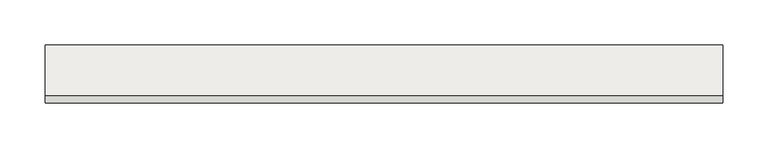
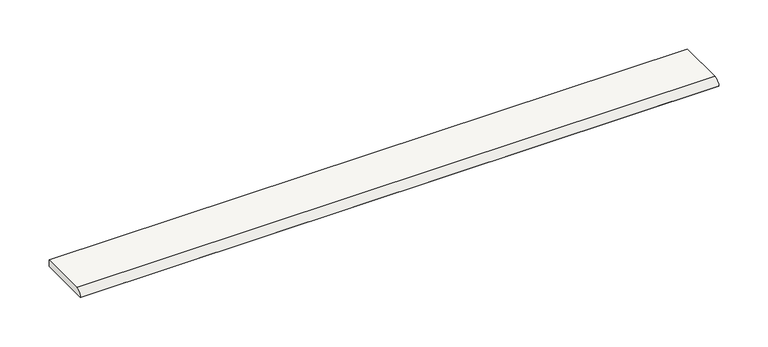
"""IFC4 building model written with IfcOpenShell, lengths in millimetres: slab geometry, ROSA GRES_013 : Pieza 013_Aqua_Marino_Liso."""

from ifc_helpers import new_model, si_unit, point, frame, frame_2d, origin, place, context, project, spatial, polyline, circle_curve, trimmed, segment, composite_curve, outline, extrude, source, transform, mapped, element, save


def slab_85165e39(model_context):
    return source(origin(), model_context, "Body", "SweptSolid", [
        extrude(outline(composite_curve([segment(polyline([(0.7830162, 0.0), (0.0, 0.7830162)]), True, "CONTINUOUS"), segment(trimmed(circle_curve(frame_2d((9.4741171, -1.740645)), 9.8044766), [point((0.0, 0.7830162))], [point((8.3571586, 8.0))], False, "CARTESIAN"), True, "CONTINUOUS"), segment(polyline([(8.3571586, 8.0), (64.1, 8.0), (64.1, 0.0), (0.7830162, 0.0)]), True, "CONTINUOUS")], self_intersect=False)), frame((0.0, 0.0, 0.0), z_axis=(1.0, 0.0, 0.0), x_axis=(0.0, 1.0, 0.0)), (0.0, 0.0, 1.0), 750.0),
    ])


if __name__ == "__main__":
    model = new_model("IFC4")
    model_context = context("Model", 3, world=origin())
    ifc_project = project(units=[si_unit("LENGTHUNIT", "METRE", prefix="MILLI")], contexts=[model_context])
    site = spatial("IfcSite", under=ifc_project)
    building = spatial("IfcBuilding", under=site)
    placement = place(None, origin())
    slab_shape = slab_85165e39(model_context)
    element("IfcSlab", 1, ObjectType="ROSA GRES_013 : Pieza 013_Aqua_Marino_Liso", at=placement, inside=building, context=model_context, shape_type="MappedRepresentation", body=[
        mapped(slab_shape, transform((0.0, 0.0, 0.0), x_axis=(1.0, 0.0, 0.0), y_axis=(0.0, 1.0, 0.0), z_axis=(0.0, 0.0, 1.0))),
    ])
    save(model, "model.ifc")
